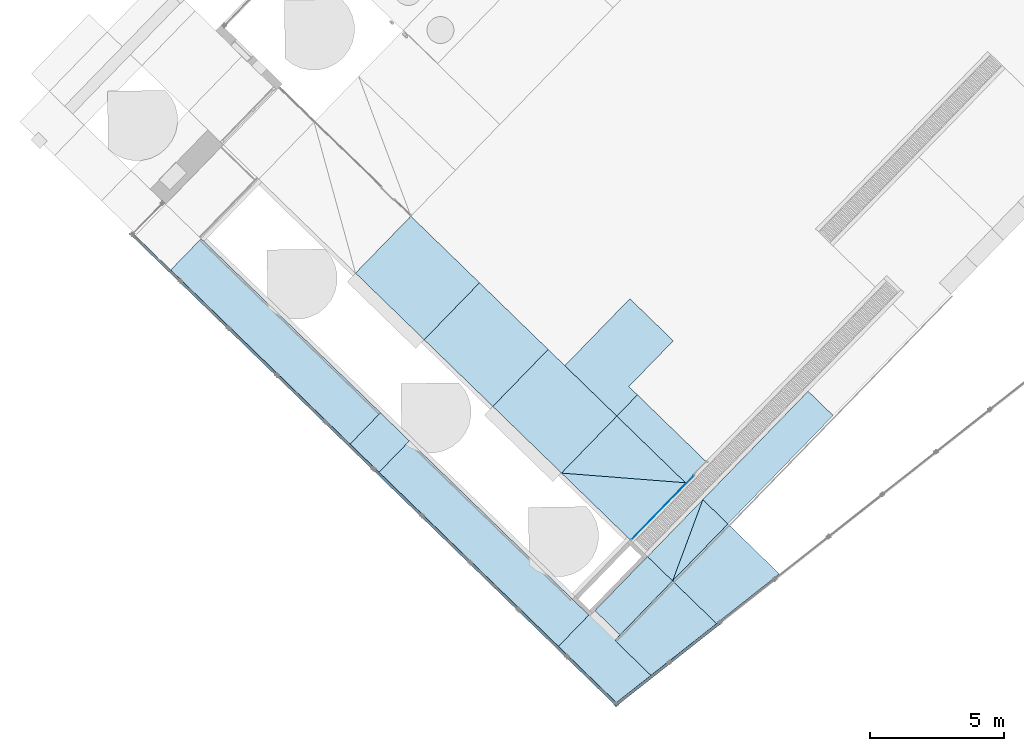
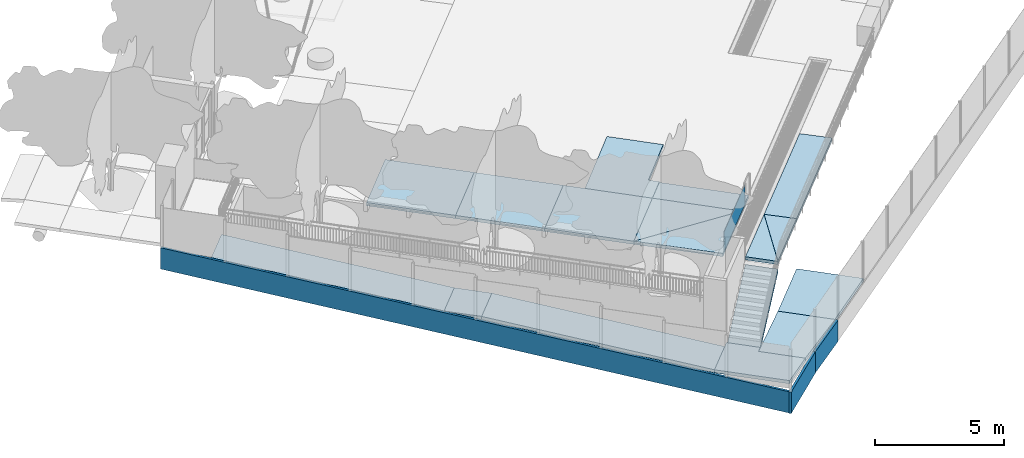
# One storey, part 11 of 37: 20 slabs, 1 plate, 1 element without a shape of its own.
"""IFC2X3 building model written with IfcOpenShell, lengths in centimetres."""

from ifc_helpers import new_model, entity, si_unit, converted_unit, derived_unit, direction, frame, frame_2d, origin, origin_2d_with_axis, place, context, subcontext, project, spatial, polyline, rectangle, outline, extrude, source, transform, mapped, material, layer, layer_set, layer_usage, type_object, type_shapes, element, aggregate, save


model = new_model("IFC2X3")

# Units and contexts
model_context = context("Model", 3, precision=0.001, world=origin(), true_north=direction((0.717475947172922, 0.696583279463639)))
body_context = subcontext(model_context, "Body", "Model", "MODEL_VIEW")
ifc_project = project(units=[si_unit("LENGTHUNIT", "METRE", prefix="CENTI"), si_unit("AREAUNIT", "SQUARE_METRE"), si_unit("VOLUMEUNIT", "CUBIC_METRE"), converted_unit("PLANEANGLEUNIT", "DEGREE", entity("IfcRatioMeasure", 0.0174532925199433), si_unit("PLANEANGLEUNIT", "RADIAN"), dimensions=[0, 0, 0, 0, 0, 0, 0]), si_unit("MASSUNIT", "GRAM", prefix="KILO"), derived_unit("MASSDENSITYUNIT", [(si_unit("MASSUNIT", "GRAM", prefix="KILO"), 1), (si_unit("LENGTHUNIT", "METRE"), -3)]), si_unit("TIMEUNIT", "SECOND"), si_unit("FREQUENCYUNIT", "HERTZ"), si_unit("THERMODYNAMICTEMPERATUREUNIT", "DEGREE_CELSIUS"), derived_unit("THERMALTRANSMITTANCEUNIT", [(si_unit("MASSUNIT", "GRAM", prefix="KILO"), 1), (si_unit("THERMODYNAMICTEMPERATUREUNIT", "KELVIN"), -1), (si_unit("TIMEUNIT", "SECOND"), -3)]), derived_unit("VOLUMETRICFLOWRATEUNIT", [(si_unit("LENGTHUNIT", "METRE"), 3), (si_unit("TIMEUNIT", "SECOND"), -1)]), si_unit("ELECTRICCURRENTUNIT", "AMPERE"), si_unit("ELECTRICVOLTAGEUNIT", "VOLT"), si_unit("POWERUNIT", "WATT"), si_unit("FORCEUNIT", "NEWTON", prefix="KILO"), si_unit("ILLUMINANCEUNIT", "LUX"), si_unit("LUMINOUSFLUXUNIT", "LUMEN"), si_unit("LUMINOUSINTENSITYUNIT", "CANDELA"), derived_unit("USERDEFINED", [(si_unit("MASSUNIT", "GRAM", prefix="KILO"), -1), (si_unit("LENGTHUNIT", "METRE"), -2), (si_unit("TIMEUNIT", "SECOND"), 3), (si_unit("LUMINOUSFLUXUNIT", "LUMEN"), 1)]), derived_unit("LINEARVELOCITYUNIT", [(si_unit("LENGTHUNIT", "METRE"), 1), (si_unit("TIMEUNIT", "SECOND"), -1)]), si_unit("PRESSUREUNIT", "PASCAL"), derived_unit("USERDEFINED", [(si_unit("LENGTHUNIT", "METRE"), -2), (si_unit("MASSUNIT", "GRAM", prefix="KILO"), 1), (si_unit("TIMEUNIT", "SECOND"), -2)])], contexts=[model_context])

# Site, building, storey
site_placement = place(None, frame((0.0, 0.0, 0.0), z_axis=(0.0, 0.0, 1.0), x_axis=(0.696583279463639, 0.717475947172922, 0.0)))
site = spatial("IfcSite", under=ifc_project, at=site_placement, Name="Surface", CompositionType="ELEMENT")
building_placement = place(site_placement, origin())
building = spatial("IfcBuilding", under=site, at=building_placement, CompositionType="ELEMENT")
storey_placement = place(building_placement, origin())
storey = spatial("IfcBuildingStorey", under=building, at=storey_placement, Name="Nivel 0.00", CompositionType="ELEMENT", Elevation=0.0)

# Curtain wall, plate
curtain_wall_type = type_object("IfcCurtainWallType", Name="Curtain Wall:REJA_BAJA_100mm", PredefinedType="NOTDEFINED")
curtain_wall_placement = place(storey_placement, origin())
curtain_wall = element("IfcCurtainWall", 1, at=curtain_wall_placement, inside=storey, type_object=curtain_wall_type, Name="Curtain Wall:REJA_BAJA_100mm", ObjectType="Curtain Wall:REJA_BAJA_100mm")
ifc_material_1 = material(Name="REJA_MALLA_ACMA")
plate_type = type_object("IfcPlateType", Name="MALLA ACMA", PredefinedType="CURTAIN_PANEL", material=ifc_material_1)
shared_shape = source(origin(), body_context, "Body", "SweptSolid", [
    extrude(rectangle(XDim=1.0, YDim=330.230456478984, at=origin_2d_with_axis()), frame((0.0, 0.0, 0.0), z_axis=(0.0, 0.0, 1.0), x_axis=(0.0, 1.0, 0.0)), (0.0, 0.0, 1.0), 94.0),
])
type_shapes(plate_type, [shared_shape])
plate_placement = place(curtain_wall_placement, frame((-1735.64186146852, -1348.55485725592, 155.0), z_axis=(0.0, 0.0, 1.0), x_axis=(-1.0, 0.0, 0.0)))
plate = element("IfcPlate", 2, at=plate_placement, type_object=plate_type, material=ifc_material_1, Name="System Panel:MALLA ACMA", ObjectType="MALLA ACMA", context=body_context, shape_type="MappedRepresentation", body=[
    mapped(shared_shape, transform((0.0, 0.0, 0.0), scale=1.0)),
])
aggregate(curtain_wall, [plate])

# Slabs
ifc_material_2 = material(Name="<Unnamed>")
ifc_layer_1 = layer(ifc_material_2, 15.0)
ifc_layer_set_1 = layer_set([ifc_layer_1], Name="Pad:HORMIGON_EXTERIOR_150mm")
ifc_layer_usage_1 = layer_usage(ifc_layer_set_1, "AXIS3", "POSITIVE", 0.0)
slab_1_placement = place(storey_placement, frame((-2375.82805205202, -350.825965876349, 11.9250917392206)))
element("IfcSlab", 3, at=slab_1_placement, inside=storey, material=ifc_layer_usage_1, Name="Pad:HORMIGON_EXTERIOR_150mm", ObjectType="Pad:HORMIGON_EXTERIOR_150mm", PredefinedType="FLOOR", context=body_context, shape_type="SweptSolid", body=[
    extrude(rectangle(XDim=162.070940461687, YDim=934.116237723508, at=frame_2d((-2.49999437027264, -467.058118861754), x_axis=(-1.0, 0.0))), frame((83.5354646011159, 0.0, 15.0748977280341), z_axis=(0.0, 0.0995593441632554, -0.995031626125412), x_axis=(1.0, 0.0, 0.0)), (0.0, 0.0995593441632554, 0.995031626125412), 15.074897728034),
])
ifc_layer_usage_2 = layer_usage(ifc_layer_set_1, "AXIS3", "POSITIVE", 0.0)
slab_2_placement = place(storey_placement, origin())
element("IfcSlab", 4, at=slab_2_placement, inside=storey, material=ifc_layer_usage_2, Name="Pad:HORMIGON_EXTERIOR_150mm", ObjectType="Pad:HORMIGON_EXTERIOR_150mm", PredefinedType="FLOOR", context=body_context, shape_type="SweptSolid", body=[
    extrude(rectangle(XDim=162.070940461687, YDim=149.999999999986, at=origin_2d_with_axis()), frame((-2294.79258182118, -425.825965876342, 11.9999894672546), z_axis=(0.0, 0.0, 1.0), x_axis=(-1.0, 0.0, 0.0)), (0.0, 0.0, 1.0), 15.0),
])
ifc_layer_usage_3 = layer_usage(ifc_layer_set_1, "AXIS3", "POSITIVE", 0.0)
slab_3_placement = place(storey_placement, frame((-2375.82805205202, -1430.30116488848, -81.0749082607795)))
element("IfcSlab", 5, at=slab_3_placement, inside=storey, material=ifc_layer_usage_3, Name="Pad:HORMIGON_EXTERIOR_150mm", ObjectType="Pad:HORMIGON_EXTERIOR_150mm", PredefinedType="FLOOR", context=body_context, shape_type="SweptSolid", body=[
    extrude(rectangle(XDim=162.070940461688, YDim=934.11623772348, at=frame_2d((-2.49999437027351, -467.05811886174), x_axis=(-1.0, 0.0))), frame((83.5354646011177, 0.0, 15.0748977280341), z_axis=(0.0, 0.0995593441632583, -0.995031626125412), x_axis=(1.0, 0.0, 0.0)), (0.0, 0.0995593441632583, 0.995031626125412), 15.074897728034),
])
ifc_layer_usage_4 = layer_usage(ifc_layer_set_1, "AXIS3", "POSITIVE", 0.0)
slab_4_placement = place(storey_placement, origin())
element("IfcSlab", 6, at=slab_4_placement, inside=storey, material=ifc_layer_usage_4, Name="Pad:HORMIGON_EXTERIOR_150mm", ObjectType="Pad:HORMIGON_EXTERIOR_150mm", PredefinedType="FLOOR", context=body_context, shape_type="SweptSolid", body=[
    extrude(outline(polyline([(-72.5162174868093, -148.715881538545), (117.293584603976, -148.715881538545), (117.293584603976, 151.615031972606), (-44.7773671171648, 173.231191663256), (-44.7773671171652, -13.7072302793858), (-72.5162174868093, -13.7072302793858), (-72.5162174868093, -148.715881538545)])), frame((-2258.53446744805, -1579.01704642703, -81.0000105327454), z_axis=(0.0, 0.0, 1.0), x_axis=(-1.0, 0.0, 0.0)), (0.0, 0.0, 1.0), 15.0),
])
ifc_layer_usage_5 = layer_usage(ifc_layer_set_1, "AXIS3", "POSITIVE", 0.0)
slab_5_placement = place(storey_placement, frame((-2213.75710033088, -1793.3276339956, -100.028524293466)))
element("IfcSlab", 7, at=slab_5_placement, inside=storey, material=ifc_layer_usage_5, Name="Pad:HORMIGON_EXTERIOR_150mm", ObjectType="Pad:HORMIGON_EXTERIOR_150mm", PredefinedType="FLOOR", context=body_context, shape_type="SweptSolid", body=[
    extrude(outline(polyline([(-308.585464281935, -109.316420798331), (0.0, -109.316420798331), (0.0, 118.701397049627), (-308.585464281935, 77.6220011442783), (-308.585464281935, -109.316420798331)])), frame((307.999981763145, 118.701397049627, 15.0285137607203), z_axis=(-0.0615712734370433, 0.0, -0.998102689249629), x_axis=(0.998102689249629, 0.0, -0.0615712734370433)), (0.0615712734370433, 0.0, 0.998102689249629), 15.0285137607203),
])
ifc_layer_usage_6 = layer_usage(ifc_layer_set_1, "AXIS3", "POSITIVE", 0.0)
slab_6_placement = place(storey_placement, origin())
element("IfcSlab", 8, at=slab_6_placement, inside=storey, material=ifc_layer_usage_6, Name="Pad:HORMIGON_EXTERIOR_150mm", ObjectType="Pad:HORMIGON_EXTERIOR_150mm", PredefinedType="FLOOR", context=body_context, shape_type="SweptSolid", body=[
    extrude(outline(polyline([(-147.600105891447, -123.534804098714), (147.600105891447, -123.534804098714), (147.600105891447, 103.848688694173), (-147.600105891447, 143.220919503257), (-147.600105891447, -123.534804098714)])), frame((-1758.15701267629, -1688.842357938, -100.000010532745), z_axis=(0.0, 0.0, 1.0), x_axis=(-1.0, 0.0, 0.0)), (0.0, 0.0, 1.0), 15.0),
])
ifc_layer_usage_7 = layer_usage(ifc_layer_set_1, "AXIS3", "POSITIVE", 0.0)
slab_7_placement = place(storey_placement, frame((-1905.75692937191, -1565.30755383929, 134.998210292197)))
element("IfcSlab", 9, at=slab_7_placement, inside=storey, material=ifc_layer_usage_7, Name="Pad:HORMIGON_EXTERIOR_150mm", ObjectType="Pad:HORMIGON_EXTERIOR_150mm", PredefinedType="FLOOR", context=body_context, shape_type="SweptSolid", body=[
    extrude(outline(polyline([(-295.200022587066, -129.864341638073), (0.0, -129.864341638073), (0.0, 0.0), (-295.200022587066, -129.864341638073)])), frame((295.200022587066, 129.848940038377, 15.0017791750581), z_axis=(0.0, 0.0154006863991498, 0.999881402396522), x_axis=(1.0, 0.0, 0.0)), (0.0, 0.0154006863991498, -0.999881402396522), 15.0017791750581),
])
ifc_layer_usage_8 = layer_usage(ifc_layer_set_1, "AXIS3", "POSITIVE", 0.0)
slab_8_placement = place(storey_placement, origin())
element("IfcSlab", 10, at=slab_8_placement, inside=storey, material=ifc_layer_usage_8, Name="Pad:HORMIGON_EXTERIOR_150mm", ObjectType="Pad:HORMIGON_EXTERIOR_150mm", PredefinedType="FLOOR", context=body_context, shape_type="SweptSolid", body=[
    extrude(outline(polyline([(-124.928264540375, -39.6201915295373), (197.573607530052, -39.6201915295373), (-72.6453429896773, 79.2403830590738), (-124.928264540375, -39.6201915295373)])), frame((-1807.35536286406, -1478.74014712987, 134.999989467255), z_axis=(0.0, 0.0, 1.0), x_axis=(0.915359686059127, 0.4026371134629, 0.0)), (0.0, 0.0, 1.0), 15.0),
])
ifc_layer_usage_9 = layer_usage(ifc_layer_set_1, "AXIS3", "POSITIVE", 0.0)
slab_9_placement = place(storey_placement, frame((-1610.55188794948, -1565.30786144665, 134.998210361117)))
element("IfcSlab", 11, at=slab_9_placement, inside=storey, material=ifc_layer_usage_9, Name="Pad:HORMIGON_EXTERIOR_150mm", ObjectType="Pad:HORMIGON_EXTERIOR_150mm", PredefinedType="FLOOR", context=body_context, shape_type="SweptSolid", body=[
    extrude(rectangle(XDim=561.804656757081, YDim=129.866856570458, at=frame_2d((0.0, -64.9334282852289), x_axis=(-1.0, 0.0))), frame((280.902328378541, 129.851455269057, 15.0017791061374), z_axis=(0.0, 0.0154003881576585, 0.999881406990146), x_axis=(1.0, 0.0, 0.0)), (0.0, 0.0154003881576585, -0.999881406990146), 15.0017791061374),
])
ifc_layer_usage_10 = layer_usage(ifc_layer_set_1, "AXIS3", "POSITIVE", 0.0)
slab_10_placement = place(storey_placement, frame((-1905.75688857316, -278.216498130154, 131.999214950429)))
element("IfcSlab", 12, at=slab_10_placement, inside=storey, material=ifc_layer_usage_10, Name="Pad:HORMIGON_EXTERIOR_150mm", ObjectType="Pad:HORMIGON_EXTERIOR_150mm", PredefinedType="FLOOR", context=body_context, shape_type="SweptSolid", body=[
    extrude(rectangle(XDim=295.22509836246, YDim=355.74999855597, at=frame_2d((-147.61254918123, -17.8749992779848), x_axis=(1.0, 0.0))), frame((295.20985536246, 160.0, 18.0007745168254), z_axis=(0.0101617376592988, 0.0, -0.999948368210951), x_axis=(0.999948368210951, 0.0, 0.0101617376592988)), (-0.0101617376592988, 0.0, 0.999948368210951), 15.0007745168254),
])
ifc_layer_usage_11 = layer_usage(ifc_layer_set_1, "AXIS3", "POSITIVE", 0.0)
slab_11_placement = place(storey_placement, frame((-1905.75714386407, -633.966496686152, 131.999214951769)))
element("IfcSlab", 13, at=slab_11_placement, inside=storey, material=ifc_layer_usage_11, Name="Pad:HORMIGON_EXTERIOR_150mm", ObjectType="Pad:HORMIGON_EXTERIOR_150mm", PredefinedType="FLOOR", context=body_context, shape_type="SweptSolid", body=[
    extrude(rectangle(XDim=295.225353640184, YDim=355.749998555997, at=frame_2d((-147.612676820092, 0.0), x_axis=(1.0, 0.0))), frame((295.210110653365, 177.874999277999, 18.0007745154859), z_axis=(0.0101617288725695, 0.0, -0.999948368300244), x_axis=(0.999948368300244, 0.0, 0.0101617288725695)), (-0.0101617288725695, 0.0, 0.999948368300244), 15.0007745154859),
])
ifc_layer_usage_12 = layer_usage(ifc_layer_set_1, "AXIS3", "POSITIVE", 0.0)
slab_12_placement = place(storey_placement, frame((-1905.75707844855, -989.818789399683, 131.999214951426)))
element("IfcSlab", 14, at=slab_12_placement, inside=storey, material=ifc_layer_usage_12, Name="Pad:HORMIGON_EXTERIOR_150mm", ObjectType="Pad:HORMIGON_EXTERIOR_150mm", PredefinedType="FLOOR", context=body_context, shape_type="SweptSolid", body=[
    extrude(rectangle(XDim=295.22528822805, YDim=355.852292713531, at=frame_2d((-147.612644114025, 0.0), x_axis=(1.0, 0.0))), frame((295.210045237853, 177.926146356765, 18.0007745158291), z_axis=(0.0101617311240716, 0.0, -0.999948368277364), x_axis=(0.999948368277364, 0.0, 0.0101617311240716)), (-0.0101617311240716, 0.0, 0.999948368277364), 15.0007745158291),
])
ifc_layer_usage_13 = layer_usage(ifc_layer_set_1, "AXIS3", "POSITIVE", 0.0)
slab_13_placement = place(storey_placement, frame((-1905.75871215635, -1345.46649378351, 131.999198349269)))
element("IfcSlab", 15, at=slab_13_placement, inside=storey, material=ifc_layer_usage_13, Name="Pad:HORMIGON_EXTERIOR_150mm", ObjectType="Pad:HORMIGON_EXTERIOR_150mm", PredefinedType="FLOOR", context=body_context, shape_type="SweptSolid", body=[
    extrude(outline(polyline([(-0.00163379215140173, 0.10231447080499), (295.21541323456, -355.647704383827), (295.215413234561, 0.10231447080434), (-0.00163379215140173, 0.10231447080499)])), frame((0.00163370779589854, 355.647704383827, 15.0007911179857), z_axis=(-0.0101617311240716, 0.0, 0.999948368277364), x_axis=(0.999948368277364, 0.0, 0.0101617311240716)), (-0.0101617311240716, 0.0, -0.999948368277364), 15.0007745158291),
])
ifc_layer_usage_14 = layer_usage(ifc_layer_set_1, "AXIS3", "POSITIVE", 0.0)
slab_14_placement = place(storey_placement, frame((-1905.74727028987, -1345.46649379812, 131.999456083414)))
element("IfcSlab", 16, at=slab_14_placement, inside=storey, material=ifc_layer_usage_14, Name="Pad:HORMIGON_EXTERIOR_150mm", ObjectType="Pad:HORMIGON_EXTERIOR_150mm", PredefinedType="FLOOR", context=body_context, shape_type="SweptSolid", body=[
    extrude(outline(polyline([(295.19036260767, 0.0), (0.0, 0.0), (0.0, -355.748879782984), (295.19036260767, 0.0)])), frame((0.0, 0.0, 18.000533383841), z_axis=(0.0, -0.00843291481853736, -0.999964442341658), x_axis=(1.0, 0.0, 0.0)), (0.0, -0.00843291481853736, 0.999964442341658), 15.000533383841),
])
ifc_layer_usage_15 = layer_usage(ifc_layer_set_1, "AXIS3", "POSITIVE", 0.0)
slab_15_placement = place(storey_placement, origin())
element("IfcSlab", 17, at=slab_15_placement, inside=storey, material=ifc_layer_usage_15, Name="Pad:HORMIGON_EXTERIOR_150mm", ObjectType="Pad:HORMIGON_EXTERIOR_150mm", PredefinedType="FLOOR", context=body_context, shape_type="SweptSolid", body=[
    extrude(rectangle(XDim=355.750018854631, YDim=109.98680175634, at=frame_2d((-1.13686837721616e-13, 1.06581410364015e-13), x_axis=(1.0, 0.0))), frame((-1555.56350681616, -1167.59148435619, 134.999989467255), z_axis=(0.0, 0.0, 1.0), x_axis=(0.0, 1.0, 0.0)), (0.0, 0.0, 1.0), 15.0),
])
ifc_layer_usage_16 = layer_usage(ifc_layer_set_1, "AXIS3", "POSITIVE", 0.0)
slab_16_placement = place(storey_placement, frame((-1610.5470332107, -989.716474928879, 134.993762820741)))
element("IfcSlab", 18, at=slab_16_placement, inside=storey, material=ifc_layer_usage_16, Name="Pad:HORMIGON_EXTERIOR_150mm", ObjectType="Pad:HORMIGON_EXTERIOR_150mm", PredefinedType="FLOOR", context=body_context, shape_type="SweptSolid", body=[
    extrude(outline(polyline([(347.167213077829, 134.624990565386), (0.0, 134.624990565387), (0.0, -134.624990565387), (110.068832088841, -134.624990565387), (110.068832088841, -90.3750094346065), (347.167213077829, -90.3750094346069), (347.167213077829, 134.624990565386)])), frame((0.0, 134.624990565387, 15.0062266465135), z_axis=(-0.0288045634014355, 0.0, 0.999585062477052), x_axis=(0.999585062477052, 0.0, 0.0288045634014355)), (-0.0288045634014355, 0.0, -0.999585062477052), 15.0062266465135),
])
ifc_layer_usage_17 = layer_usage(ifc_layer_set_1, "AXIS3", "POSITIVE", 0.0)
slab_17_placement = place(storey_placement, frame((-2186.01824996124, -1564.89941239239, -83.8321289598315)))
element("IfcSlab", 19, at=slab_17_placement, inside=storey, material=ifc_layer_usage_17, Name="Pad:HORMIGON_EXTERIOR_150mm", ObjectType="Pad:HORMIGON_EXTERIOR_150mm", PredefinedType="FLOOR", context=body_context, shape_type="SweptSolid", body=[
    extrude(rectangle(XDim=333.176850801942, YDim=129.853409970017, at=frame_2d((166.588425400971, 0.205201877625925), x_axis=(-1.0, 0.0))), frame((0.0, 64.7215031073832, 17.8321289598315), z_axis=(-0.540757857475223, 0.0, 0.841178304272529), x_axis=(0.841178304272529, 0.0, 0.540757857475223)), (-0.540757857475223, 0.0, -0.841178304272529), 17.8321289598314),
])
ifc_material_3 = material(Name="Concrete, Cast-in-Place gray")
ifc_layer_2 = layer(ifc_material_3, 100.0)
ifc_layer_set_2 = layer_set([ifc_layer_2], Name="Pad:HORMIGON_M.CONTEN_1000mm")
ifc_layer_usage_18 = layer_usage(ifc_layer_set_2, "AXIS3", "POSITIVE", 0.0)
slab_18_placement = place(storey_placement, frame((-2136.86102480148, -1804.30342664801, -190.021724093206)))
element("IfcSlab", 20, at=slab_18_placement, inside=storey, material=ifc_layer_usage_18, Name="Pad:HORMIGON_M.CONTEN_1000mm", ObjectType="Pad:HORMIGON_M.CONTEN_1000mm", PredefinedType="FLOOR", context=body_context, shape_type="SweptSolid", body=[
    extrude(rectangle(XDim=239.913633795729, YDim=10.0000386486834, at=frame_2d((119.565525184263, -10.8992113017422), x_axis=(-0.991226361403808, 0.132175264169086))), frame((0.0, 31.7106479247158, 105.021724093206), z_axis=(0.0210253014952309, 0.0, 0.999778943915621), x_axis=(0.999778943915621, 0.0, -0.0210253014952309)), (0.0210253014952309, 0.0, -0.999778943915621), 100.022110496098),
])
ifc_layer_usage_19 = layer_usage(ifc_layer_set_2, "AXIS3", "POSITIVE", 0.0)
slab_19_placement = place(storey_placement, frame((-2385.82805205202, -1772.59277872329, -213.148892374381)))
element("IfcSlab", 21, at=slab_19_placement, inside=storey, material=ifc_layer_usage_19, Name="Pad:HORMIGON_M.CONTEN_1000mm", ObjectType="Pad:HORMIGON_M.CONTEN_1000mm", PredefinedType="FLOOR", context=body_context, shape_type="SweptSolid", body=[
    extrude(outline(polyline([(242.029397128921, -36.635644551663), (243.359048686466, -26.7234192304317), (2.02037136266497, 5.28077980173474), (-8.37108283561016, 5.28077980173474), (-8.37108283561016, -4.71922019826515), (1.35261497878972, -4.71922019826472), (242.029397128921, -36.635644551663)])), frame((8.32316139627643, 36.635644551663, 101.518892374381), z_axis=(-0.106848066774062, 0.0, 0.994275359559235), x_axis=(0.994275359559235, 0.0, 0.106848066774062)), (-0.106848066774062, 0.0, -0.994275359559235), 100.57576006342),
])
ifc_layer_usage_20 = layer_usage(ifc_layer_set_2, "AXIS3", "POSITIVE", 0.0)
slab_20_placement = place(storey_placement, frame((-2385.82805205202, -1730.67635436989, -212.129319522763)))
element("IfcSlab", 22, at=slab_20_placement, inside=storey, material=ifc_layer_usage_20, Name="Pad:HORMIGON_M.CONTEN_1000mm", ObjectType="Pad:HORMIGON_M.CONTEN_1000mm", PredefinedType="FLOOR", context=body_context, shape_type="SweptSolid", body=[
    extrude(rectangle(XDim=10.0000000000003, YDim=2521.52792682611, at=frame_2d((5.0, -1260.76396341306), x_axis=(1.0, 0.0))), frame((0.0, 2509.0, 351.541319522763), z_axis=(0.0, -0.0995594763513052, 0.995031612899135), x_axis=(1.0, 0.0, 0.0)), (0.0, -0.0995594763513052, -0.995031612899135), 100.499319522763),
])

save(model, "model.ifc")
